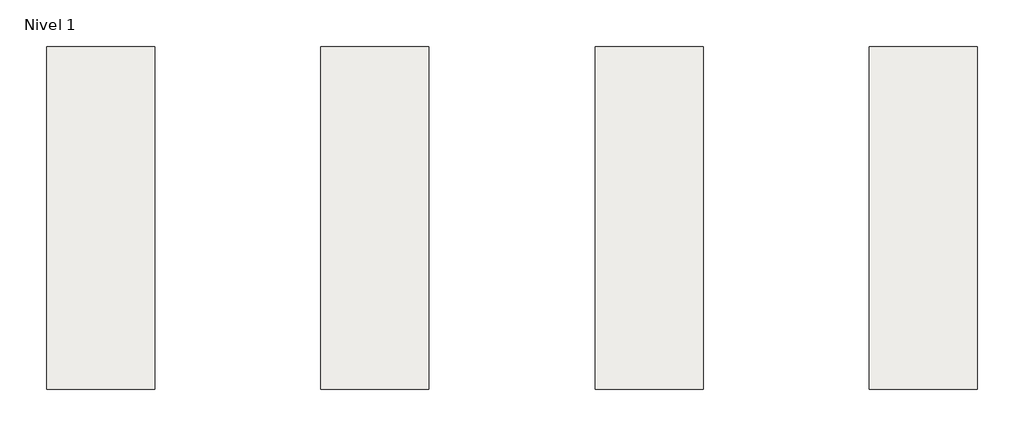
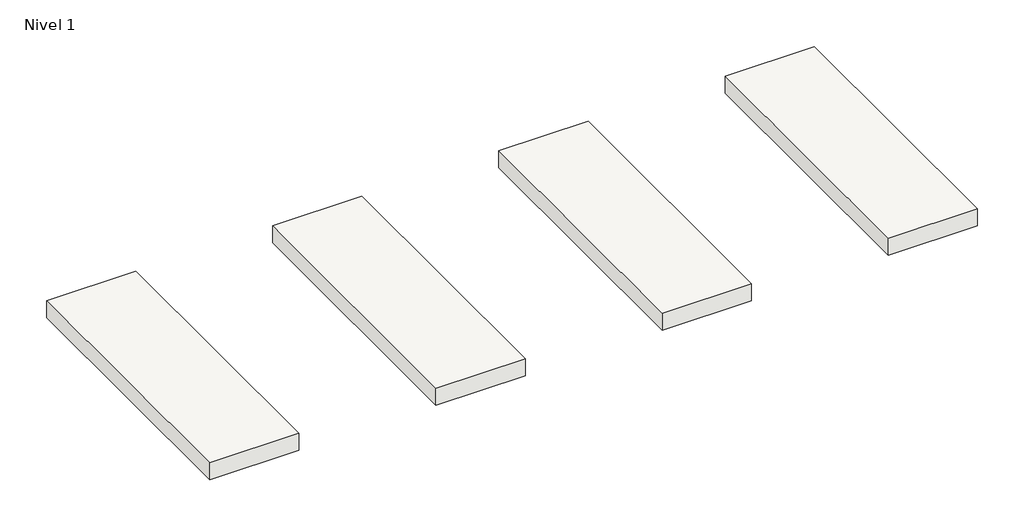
# One storey: 4 slabs.
"""IFC4 building model written with IfcOpenShell, lengths in millimetres."""

from ifc_helpers import new_model, si_unit, frame, origin, place, context, project, spatial, polyline, outline, extrude, element, save

model = new_model("IFC4")

# Units and contexts
model_context = context("Model", 3, world=origin())
ifc_project = project(units=[si_unit("LENGTHUNIT", "METRE", prefix="MILLI")], contexts=[model_context])

# Site, building, storey
site = spatial("IfcSite", under=ifc_project)
building = spatial("IfcBuilding", under=site)
storey = spatial("IfcBuildingStorey", under=building, Name="Nivel 1", Elevation=0.0)

# Slabs
placement = place(None, origin())
element("IfcSlab", 1, ObjectType="Baqueira 31,5X100", at=placement, inside=storey, context=model_context, shape_type="SweptSolid", body=[
    extrude(outline(polyline([(0.0, 1000.0), (315.0, 1000.0), (315.0, 0.0), (0.0, 0.0), (0.0, 1000.0)])), frame((0.0, 0.0, -63.7), z_axis=(0.0, 0.0, 1.0), x_axis=(1.0, 0.0, 0.0)), (0.0, 0.0, 1.0), 63.7),
])
element("IfcSlab", 2, ObjectType="Beret 31,5X100", at=placement, inside=storey, context=model_context, shape_type="SweptSolid", body=[
    extrude(outline(polyline([(800.0, 1000.0), (1115.0, 1000.0), (1115.0, 0.0), (800.0, 0.0), (800.0, 1000.0)])), frame((0.0, 0.0, -63.7), z_axis=(0.0, 0.0, 1.0), x_axis=(1.0, 0.0, 0.0)), (0.0, 0.0, 1.0), 63.7),
])
element("IfcSlab", 3, ObjectType="Formigal 31,5X100", at=placement, inside=storey, context=model_context, shape_type="SweptSolid", body=[
    extrude(outline(polyline([(1600.0, 1000.0), (1915.0, 1000.0), (1915.0, 0.0), (1600.0, 0.0), (1600.0, 1000.0)])), frame((0.0, 0.0, -63.7), z_axis=(0.0, 0.0, 1.0), x_axis=(1.0, 0.0, 0.0)), (0.0, 0.0, 1.0), 63.7),
])
element("IfcSlab", 4, ObjectType="Sun Valley 31,5X100", at=placement, inside=storey, context=model_context, shape_type="SweptSolid", body=[
    extrude(outline(polyline([(2400.0, 1000.0), (2715.0, 1000.0), (2715.0, 0.0), (2400.0, 0.0), (2400.0, 1000.0)])), frame((0.0, 0.0, -63.7), z_axis=(0.0, 0.0, 1.0), x_axis=(1.0, 0.0, 0.0)), (0.0, 0.0, 1.0), 63.7),
])

save(model, "model.ifc")
